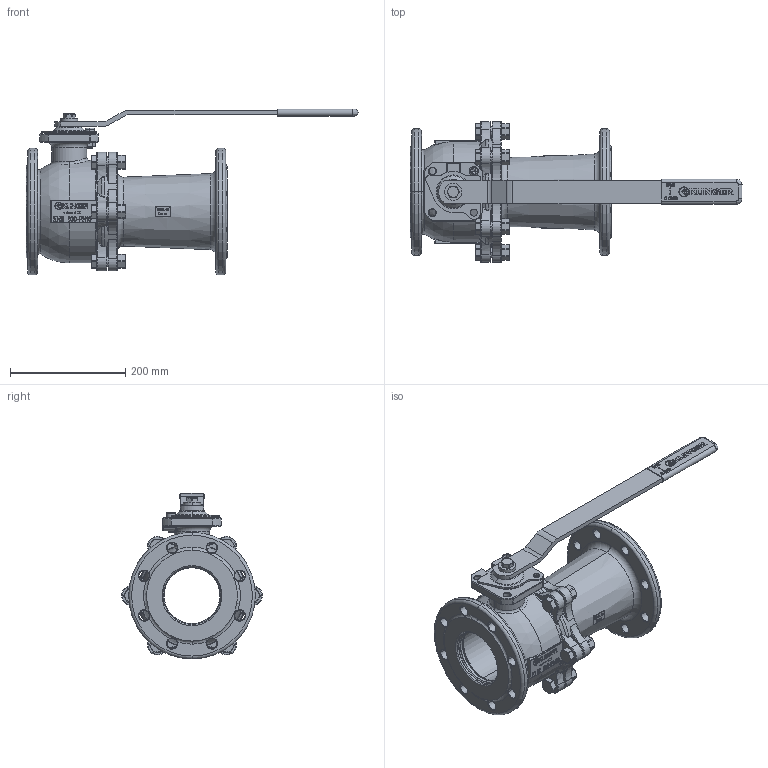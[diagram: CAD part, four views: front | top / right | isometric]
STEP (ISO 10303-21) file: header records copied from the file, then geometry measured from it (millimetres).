
FILE_DESCRIPTION((''),'2;1');
FILE_NAME('KHEFK100VFL100P016PKK','2015-08-10T',('mahrhauserh'),('RAND'),'PRO/ENGINEER BY PARAMETRIC TECHNOLOGY CORPORATION, 2013410','PRO/ENGINEER BY PARAMETRIC TECHNOLOGY CORPORATION, 2013410','');
FILE_SCHEMA(('CONFIG_CONTROL_DESIGN'));
Products named in the file (1): KHEFK100VFL100P016PKK
Bounding box: 577 x 244 x 288.25 mm (x, y, z)
Volume: 4562162.3 mm3; surface area: 784092.4 mm2
Topology: 1 solids, 1 shells, 3263 faces, 8679 edges, 5548 vertices
Faces by surface type: plane 2053, cylinder 448, torus 321, cone 254, bspline 173, sphere 14
Entity records: 129109 total; most frequent: CARTESIAN_POINT 48173, ORIENTED_EDGE 17354, DIRECTION 16230, EDGE_CURVE 8677, VECTOR 5916, LINE 5916, VERTEX_POINT 5548, AXIS2_PLACEMENT_3D 5157
